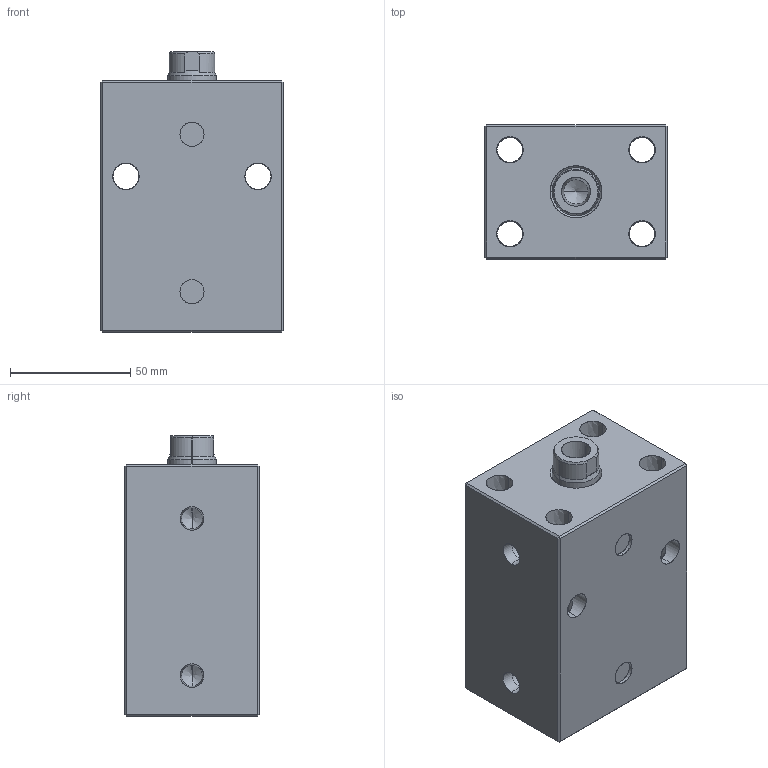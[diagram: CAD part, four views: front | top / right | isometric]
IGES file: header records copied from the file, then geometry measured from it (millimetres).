
Start section: SolidWorks IGES file using analytic representation for surfaces
Global section: file name: E:\ALL-SSVT-BLOCK\32-bore-igs model\BC04-32-50F.IGS; native system: SolidWorks 2019; preprocessor: SolidWorks 2019; author: SSVT; date: 210825.123350; units: millimetre
Bounding box: 76 x 56 x 117 mm (x, y, z)
Surface area: 64315 mm2 (no closed solid volume)
Topology: 0 solids, 0 shells, 99 faces, 1669 edges, 1663 vertices
Faces by surface type: revolution 64, bspline 35
